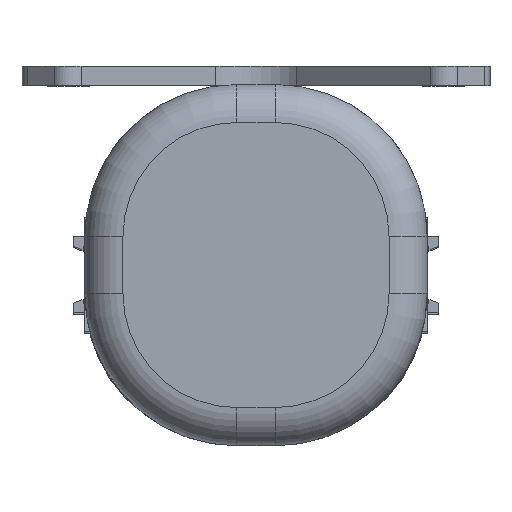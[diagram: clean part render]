
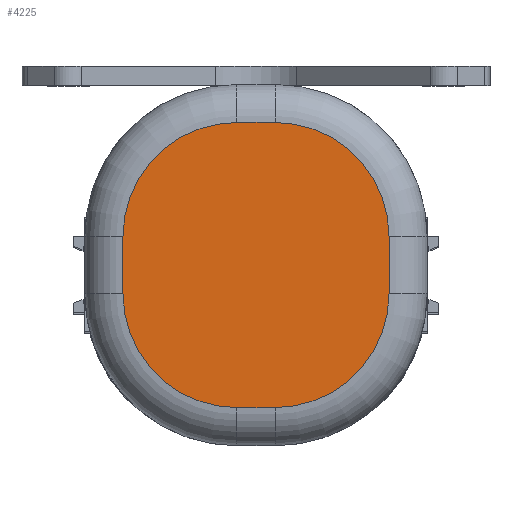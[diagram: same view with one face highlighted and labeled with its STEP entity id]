
A CAD part, top view. The second image highlights one B-rep face of the part: STEP entity #4225.
In plain terms, the highlighted planar face has unit normal (0, 0, 1).
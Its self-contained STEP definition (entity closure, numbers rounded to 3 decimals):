
#321=PLANE('',#4617);
#549=FACE_OUTER_BOUND('',#827,.T.);
#827=EDGE_LOOP('',(#3933,#3934,#3935,#3936,#3937,#3938,#3939,#3940));
#1246=LINE('',#7704,#1668);
#1248=LINE('',#7713,#1670);
#1250=LINE('',#7722,#1672);
#1251=LINE('',#7728,#1673);
#1668=VECTOR('',#5706,10.);
#1670=VECTOR('',#5718,10.);
#1672=VECTOR('',#5730,10.);
#1673=VECTOR('',#5739,10.);
#1785=CIRCLE('',#4597,30.);
#1789=CIRCLE('',#4603,30.);
#1792=CIRCLE('',#4608,30.);
#1795=CIRCLE('',#4613,30.);
#2172=VERTEX_POINT('',#7695);
#2173=VERTEX_POINT('',#7697);
#2174=VERTEX_POINT('',#7701);
#2175=VERTEX_POINT('',#7706);
#2176=VERTEX_POINT('',#7710);
#2177=VERTEX_POINT('',#7715);
#2178=VERTEX_POINT('',#7719);
#2179=VERTEX_POINT('',#7724);
#2751=EDGE_CURVE('',#2172,#2173,#1785,.T.);
#2755=EDGE_CURVE('',#2173,#2174,#1246,.T.);
#2757=EDGE_CURVE('',#2174,#2175,#1789,.T.);
#2760=EDGE_CURVE('',#2175,#2176,#1248,.T.);
#2762=EDGE_CURVE('',#2176,#2177,#1792,.T.);
#2765=EDGE_CURVE('',#2177,#2178,#1250,.T.);
#2767=EDGE_CURVE('',#2178,#2179,#1795,.T.);
#2768=EDGE_CURVE('',#2179,#2172,#1251,.T.);
#3933=ORIENTED_EDGE('',*,*,#2751,.F.);
#3934=ORIENTED_EDGE('',*,*,#2768,.F.);
#3935=ORIENTED_EDGE('',*,*,#2767,.F.);
#3936=ORIENTED_EDGE('',*,*,#2765,.F.);
#3937=ORIENTED_EDGE('',*,*,#2762,.F.);
#3938=ORIENTED_EDGE('',*,*,#2760,.F.);
#3939=ORIENTED_EDGE('',*,*,#2757,.F.);
#3940=ORIENTED_EDGE('',*,*,#2755,.F.);
#4225=ADVANCED_FACE('',(#549),#321,.T.);
#4597=AXIS2_PLACEMENT_3D('',#7698,#5697,#5698);
#4603=AXIS2_PLACEMENT_3D('',#7708,#5711,#5712);
#4608=AXIS2_PLACEMENT_3D('',#7717,#5723,#5724);
#4613=AXIS2_PLACEMENT_3D('',#7726,#5735,#5736);
#4617=AXIS2_PLACEMENT_3D('',#7732,#5745,#5746);
#5697=DIRECTION('center_axis',(0.,0.,-1.));
#5698=DIRECTION('ref_axis',(-0.707,0.707,0.));
#5706=DIRECTION('',(1.,0.,0.));
#5711=DIRECTION('center_axis',(0.,0.,-1.));
#5712=DIRECTION('ref_axis',(0.707,0.707,0.));
#5718=DIRECTION('',(0.,-1.,0.));
#5723=DIRECTION('center_axis',(0.,0.,-1.));
#5724=DIRECTION('ref_axis',(0.707,-0.707,0.));
#5730=DIRECTION('',(-1.,0.,0.));
#5735=DIRECTION('center_axis',(0.,0.,-1.));
#5736=DIRECTION('ref_axis',(-0.707,-0.707,0.));
#5739=DIRECTION('',(0.,1.,0.));
#5745=DIRECTION('center_axis',(0.,0.,1.));
#5746=DIRECTION('ref_axis',(1.,0.,0.));
#7695=CARTESIAN_POINT('',(-35.,10.,246.5));
#7697=CARTESIAN_POINT('',(-5.,40.,246.5));
#7698=CARTESIAN_POINT('Origin',(-5.,10.,246.5));
#7701=CARTESIAN_POINT('',(5.,40.,246.5));
#7704=CARTESIAN_POINT('',(22.5,40.,246.5));
#7706=CARTESIAN_POINT('',(35.,10.,246.5));
#7708=CARTESIAN_POINT('Origin',(5.,10.,246.5));
#7710=CARTESIAN_POINT('',(35.,-5.,246.5));
#7713=CARTESIAN_POINT('',(35.,-21.25,246.5));
#7715=CARTESIAN_POINT('',(5.,-35.,246.5));
#7717=CARTESIAN_POINT('Origin',(5.,-5.,246.5));
#7719=CARTESIAN_POINT('',(-5.,-35.,246.5));
#7722=CARTESIAN_POINT('',(-22.5,-35.,246.5));
#7724=CARTESIAN_POINT('',(-35.,-5.,246.5));
#7726=CARTESIAN_POINT('Origin',(-5.,-5.,246.5));
#7728=CARTESIAN_POINT('',(-35.,26.25,246.5));
#7732=CARTESIAN_POINT('Origin',(0.,2.5,
246.5));
